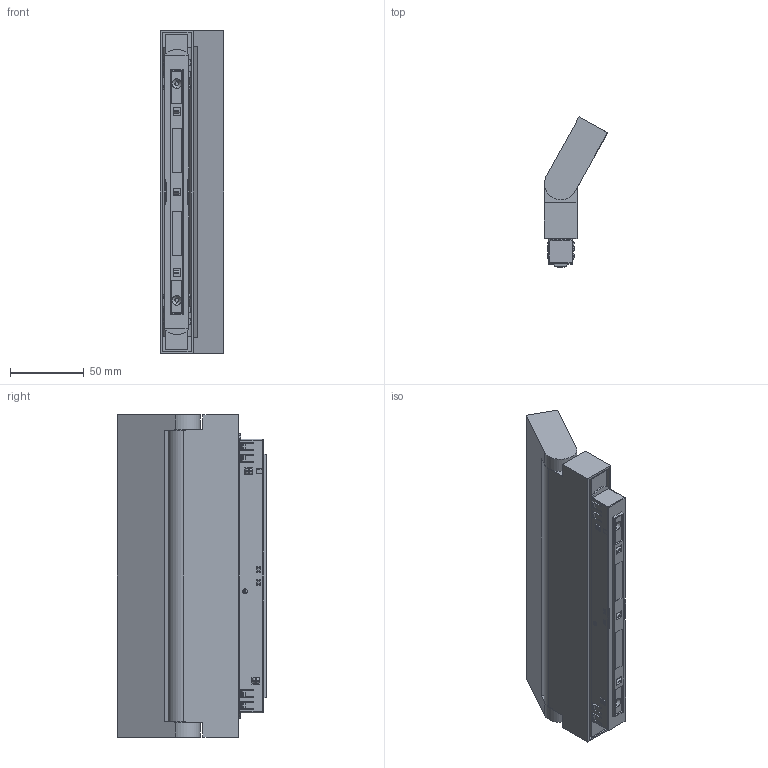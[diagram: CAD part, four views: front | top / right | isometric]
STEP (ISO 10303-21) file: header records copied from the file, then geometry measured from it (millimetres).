
FILE_DESCRIPTION (( 'STEP AP203' ), '1' );
FILE_NAME ('410214.STEP', '2025-04-02T03:04:29', ( '微软用户' ), ( '微软中国' ), 'SwSTEP 2.0', 'SolidWorks 2020', '' );
FILE_SCHEMA (( 'CONFIG_CONTROL_DESIGN' ));
Length unit declared in the file: millimetre
Products named in the file (18): MANIFOLD_SOLID_BREP_1155; MANIFOLD_SOLID_BREP_1145; MANIFOLD_SOLID_BREP_1156; ZHIJIA_2; MANIFOLD_SOLID_BREP_1146; 10-07-WJ1; ZHIJIA_0_; MANIFOLD_SOLID_BREP_1147; 10-08-G1_1; ZHIJIA_XIAGAI; MANIFOLD_SOLID_BREP_1148; 10-10-gk-2; MANIFOLD_SOLID_BREP_5218; MANIFOLD_SOLID_BREP_1149; 410214; MANIFOLD_SOLID_BREP_5198; MANIFOLD_SOLID_BREP_1150; ZUJIAN_TOUJING_12_ASM
Assembly tree (18 placements, depth 3):
  410214
    ZHIJIA_2
    ZHIJIA_0_
    ZHIJIA_XIAGAI
    ZUJIAN_TOUJING_12_ASM
      MANIFOLD_SOLID_BREP_5218
      MANIFOLD_SOLID_BREP_5198  x2
    10-10-gk-2
      MANIFOLD_SOLID_BREP_1145
      MANIFOLD_SOLID_BREP_1146
      MANIFOLD_SOLID_BREP_1147
      MANIFOLD_SOLID_BREP_1148
      MANIFOLD_SOLID_BREP_1149
      MANIFOLD_SOLID_BREP_1150
      MANIFOLD_SOLID_BREP_1155
      MANIFOLD_SOLID_BREP_1156
      10-07-WJ1
      10-08-G1_1
Bounding box: 42.63 x 101.24 x 218 mm (x, y, z)
Volume: 180530 mm3; surface area: 162294 mm2
Topology: 20 solids, 20 shells, 2482 faces, 6733 edges, 4342 vertices
Faces by surface type: plane 1742, cylinder 397, cone 229, bspline 114
Entity records: 87143 total; most frequent: CARTESIAN_POINT 32530, ORIENTED_EDGE 11994, DIRECTION 9100, EDGE_CURVE 5997, VECTOR 4108, LINE 4108, VERTEX_POINT 3874, AXIS2_PLACEMENT_3D 2496
